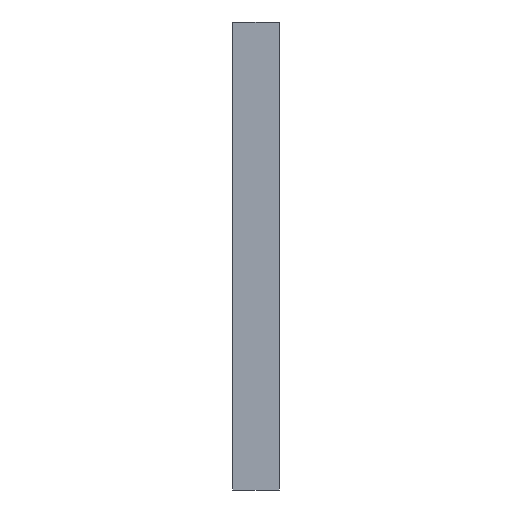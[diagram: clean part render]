
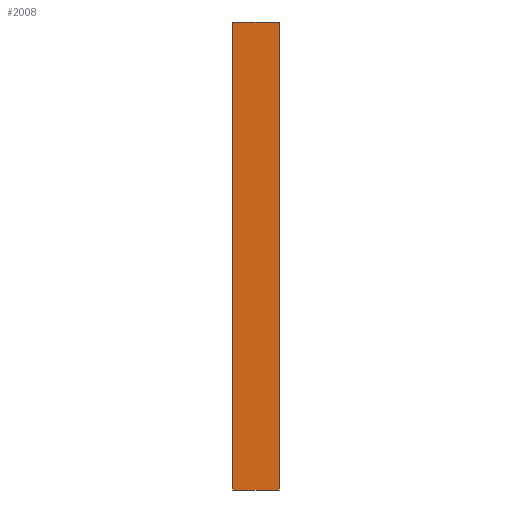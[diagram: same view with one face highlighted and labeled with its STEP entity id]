
A CAD part, front view. The second image highlights one B-rep face of the part: STEP entity #2008.
In plain terms, the highlighted planar face has unit normal (0, -1, 0).
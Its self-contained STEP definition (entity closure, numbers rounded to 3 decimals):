
#202 = EDGE_CURVE ( 'NONE', #1396, #1002, #219, .T. ) ;
#219 = LINE ( 'NONE', #1723, #864 ) ;
#344 = ORIENTED_EDGE ( 'NONE', *, *, #436, .F. ) ;
#436 = EDGE_CURVE ( 'NONE', #1396, #2357, #1281, .T. ) ;
#454 = DIRECTION ( 'NONE',  ( 0., 1., 0. ) ) ;
#462 = CARTESIAN_POINT ( 'NONE',  ( -150., 0., -1500. ) ) ;
#602 = ORIENTED_EDGE ( 'NONE', *, *, #2286, .F. ) ;
#740 = VECTOR ( 'NONE', #1582, 1000. ) ;
#752 = CARTESIAN_POINT ( 'NONE',  ( -150., 0., 1500. ) ) ;
#781 = CARTESIAN_POINT ( 'NONE',  ( -150., 0., -1500. ) ) ;
#864 = VECTOR ( 'NONE', #1166, 1000. ) ;
#867 = CARTESIAN_POINT ( 'NONE',  ( -150., 0., 1500. ) ) ;
#966 = ORIENTED_EDGE ( 'NONE', *, *, #2424, .T. ) ;
#969 = CARTESIAN_POINT ( 'NONE',  ( 150., 0., 1500. ) ) ;
#1002 = VERTEX_POINT ( 'NONE', #781 ) ;
#1166 = DIRECTION ( 'NONE',  ( 0., 0., -1. ) ) ;
#1281 = LINE ( 'NONE', #752, #2072 ) ;
#1396 = VERTEX_POINT ( 'NONE', #867 ) ;
#1580 = AXIS2_PLACEMENT_3D ( 'NONE', #1627, #454, #1999 ) ;
#1582 = DIRECTION ( 'NONE',  ( 1., 0., 0. ) ) ;
#1584 = VECTOR ( 'NONE', #1735, 1000. ) ;
#1627 = CARTESIAN_POINT ( 'NONE',  ( -150., 0., 1500. ) ) ;
#1723 = CARTESIAN_POINT ( 'NONE',  ( -150., 0., 1500. ) ) ;
#1735 = DIRECTION ( 'NONE',  ( 0., 0., -1. ) ) ;
#1787 = CARTESIAN_POINT ( 'NONE',  ( 150., 0., 1500. ) ) ;
#1804 = FACE_OUTER_BOUND ( 'NONE', #2201, .T. ) ;
#1999 = DIRECTION ( 'NONE',  ( -1., 0., 0. ) ) ;
#2000 = VERTEX_POINT ( 'NONE', #2392 ) ;
#2008 = ADVANCED_FACE ( 'NONE', ( #1804 ), #2203, .F. ) ;
#2072 = VECTOR ( 'NONE', #2287, 1000. ) ;
#2097 = ORIENTED_EDGE ( 'NONE', *, *, #202, .T. ) ;
#2112 = LINE ( 'NONE', #969, #1584 ) ;
#2149 = LINE ( 'NONE', #462, #740 ) ;
#2201 = EDGE_LOOP ( 'NONE', ( #966, #602, #344, #2097 ) ) ;
#2203 = PLANE ( 'NONE',  #1580 ) ;
#2286 = EDGE_CURVE ( 'NONE', #2357, #2000, #2112, .T. ) ;
#2287 = DIRECTION ( 'NONE',  ( 1., 0., 0. ) ) ;
#2357 = VERTEX_POINT ( 'NONE', #1787 ) ;
#2392 = CARTESIAN_POINT ( 'NONE',  ( 150., 0., -1500. ) ) ;
#2424 = EDGE_CURVE ( 'NONE', #1002, #2000, #2149, .T. ) ;
